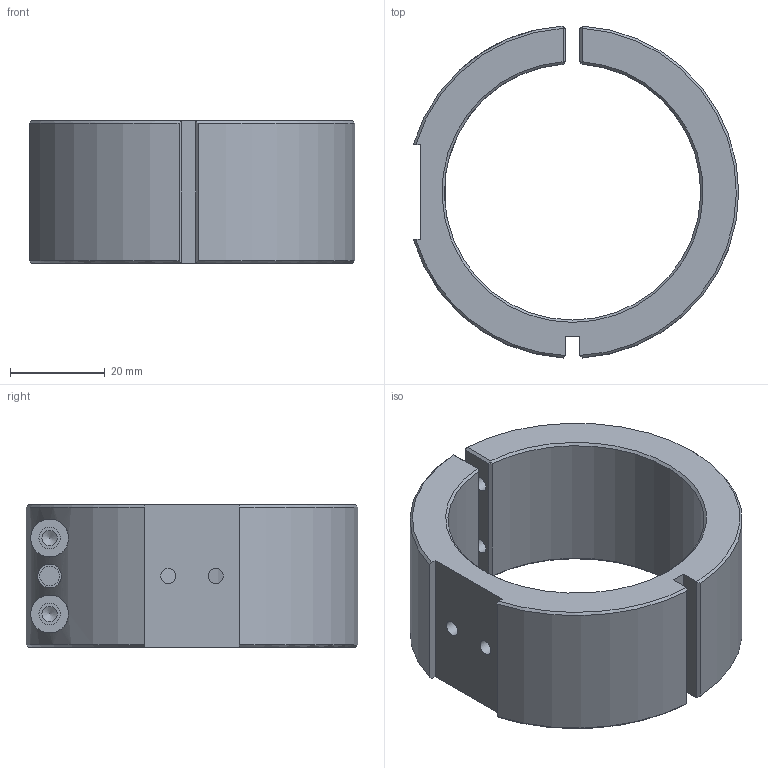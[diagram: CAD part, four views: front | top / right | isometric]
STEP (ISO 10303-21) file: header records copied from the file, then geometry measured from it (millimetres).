
FILE_DESCRIPTION((''),'2;1');
FILE_NAME('Z:\Systeme\Neue_Zeichnungen\Z3005594-01.stp','2012-10-15T10:45:17',('11000116'),(''),'Autodesk Inventor 2012','Autodesk Inventor 2012','');
FILE_SCHEMA(('AUTOMOTIVE_DESIGN { 1 0 10303 214 1 1 1 1 }'));
Length unit declared in the file: millimetre
Products named in the file (1): Z3005594-01
Bounding box: 68.54 x 69.89 x 30 mm (x, y, z)
Volume: 42318.4 mm3; surface area: 15946.2 mm2
Topology: 1 solids, 1 shells, 71 faces, 176 edges, 110 vertices
Faces by surface type: bspline 24, plane 23, cylinder 14, cone 10
Full cylindrical faces by diameter (mm): 3.242 x4, 4.134 x1, 4.5 x2, 5 x1
Entity records: 3056 total; most frequent: CARTESIAN_POINT 1599, ORIENTED_EDGE 320, DIRECTION 220, EDGE_CURVE 160, VERTEX_POINT 104, EDGE_LOOP 94, AXIS2_PLACEMENT_3D 79, FACE_OUTER_BOUND 71
